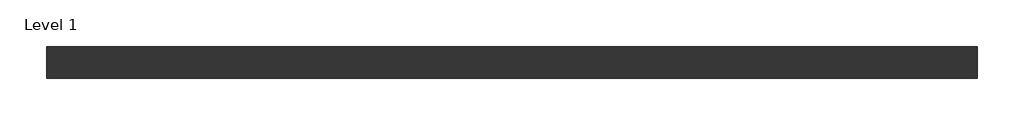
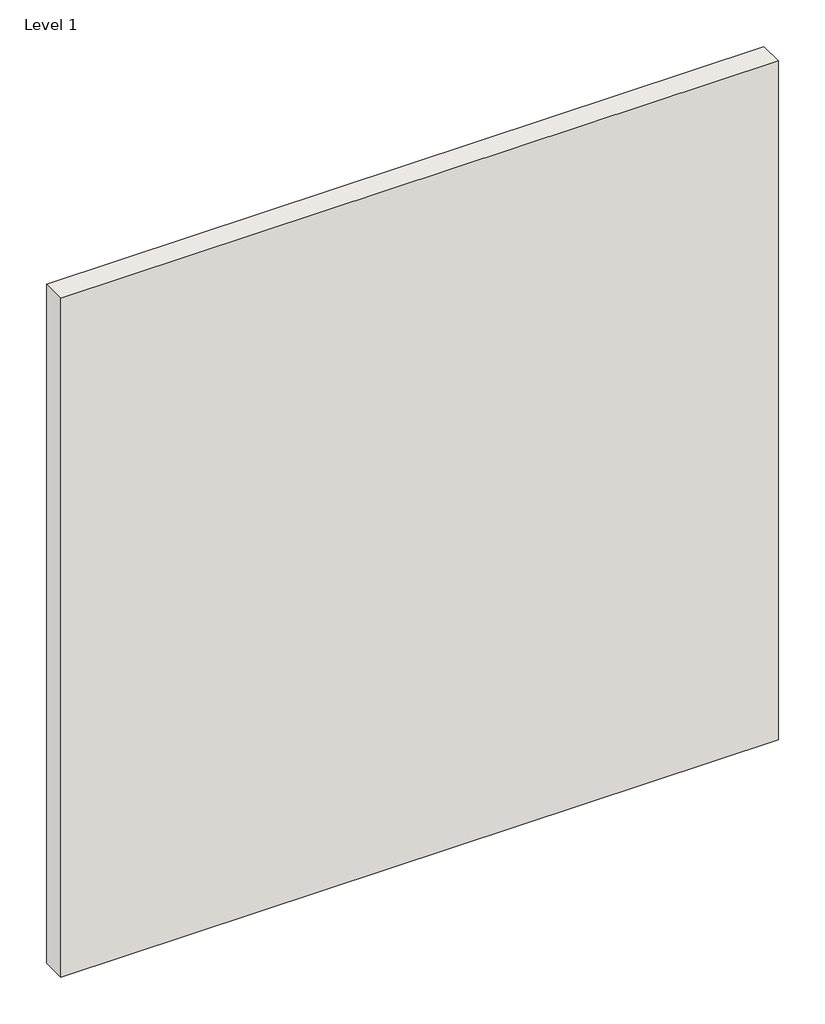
# One storey: 1 wall.
"""IFC4 building model written with IfcOpenShell, lengths in millimetres."""

import ifcopenshell
import ifcopenshell.guid

model = None  # the IFC model being written
_history = None  # IfcOwnerHistory: only IFC2X3 demands one
_inside = {}  # id of a spatial element -> (the spatial element, [elements in it])
_under = {}  # id of a project, library or spatial element -> (it, [spatial elements below it])
_declared = {}  # id of a project -> (the project, [libraries it declares])
_typed = {}  # id of a type object -> (the type object, [elements of that type])
_made_of = {}  # id of a material, layer set ... -> (it, [elements and type objects made of it])


def new_model(schema):
    """Start an empty IFC model of exactly this schema.

    Asked for "IFC4X3", IfcOpenShell would pick the latest addendum, in which some entities
    have other attributes; the version numbers below select the first issue.
    IFC2X3 requires an IfcOwnerHistory on every rooted entity: one is made here for all.
    """
    global model, _history
    if schema == "IFC4X3":
        model = ifcopenshell.file(schema_version=(4, 3, 0, 0))
    else:
        model = ifcopenshell.file(schema=schema)
    _inside.clear()
    _under.clear()
    _declared.clear()
    _typed.clear()
    _made_of.clear()
    _history = None
    if model.schema == "IFC2X3":
        org = make("IfcOrganization", Name="unknown")
        user = make(
            "IfcPersonAndOrganization",
            ThePerson=make("IfcPerson", FamilyName="unknown"),
            TheOrganization=org,
        )
        app = make(
            "IfcApplication",
            ApplicationDeveloper=org,
            Version="unknown",
            ApplicationFullName="unknown",
            ApplicationIdentifier="unknown",
        )
        _history = make(
            "IfcOwnerHistory",
            OwningUser=user,
            OwningApplication=app,
            ChangeAction="ADDED",
            CreationDate=0,
        )
    return model


def make(cls, **values):
    """One entity of the class cls with the attributes given. An attribute that is None is left unset."""
    return model.create_entity(
        cls, **{name: value for name, value in values.items() if value is not None}
    )


def rooted(cls, **values):
    """An entity with a GlobalId (a new one), such as an element, a storey or a relation."""
    return make(cls, GlobalId=ifcopenshell.guid.new(), OwnerHistory=_history, **values)


def si_unit(unit_type, name, prefix=None):
    """IfcSIUnit, for example si_unit("LENGTHUNIT", "METRE", prefix="MILLI")."""
    return make("IfcSIUnit", UnitType=unit_type, Prefix=prefix, Name=name)


def assignment(units):
    """IfcUnitAssignment: the units of a project."""
    return None if units is None else make("IfcUnitAssignment", Units=units)


def point(xyz):
    """IfcCartesianPoint."""
    return None if xyz is None else make("IfcCartesianPoint", Coordinates=xyz)


def direction(xyz):
    """IfcDirection."""
    return None if xyz is None else make("IfcDirection", DirectionRatios=xyz)


def frame(location, z_axis=None, x_axis=None):
    """IfcAxis2Placement3D, a coordinate frame: its origin and axes. An axis left out is left unset."""
    return make(
        "IfcAxis2Placement3D",
        Location=point(location),
        Axis=direction(z_axis),
        RefDirection=direction(x_axis),
    )


def origin():
    """The frame at (0, 0, 0) with its axes left unset."""
    return frame((0.0, 0.0, 0.0))


def origin_with_axes():
    """The frame at (0, 0, 0) with the z axis (0, 0, 1) and the x axis (1, 0, 0) written out."""
    return frame((0.0, 0.0, 0.0), z_axis=(0.0, 0.0, 1.0), x_axis=(1.0, 0.0, 0.0))


def place(relative_to, where):
    """IfcLocalPlacement: puts the frame where relative to a parent placement (None: the world)."""
    return make(
        "IfcLocalPlacement", PlacementRelTo=relative_to, RelativePlacement=where
    )


def context(
    kind, dimensions, precision=None, world=None, true_north=None, identifier=None
):
    """IfcGeometricRepresentationContext, for example the 3D "Model" context."""
    return make(
        "IfcGeometricRepresentationContext",
        ContextIdentifier=identifier,
        ContextType=kind,
        CoordinateSpaceDimension=dimensions,
        Precision=precision,
        WorldCoordinateSystem=world,
        TrueNorth=true_north,
    )


def project(units=None, contexts=None):
    """IfcProject with its units and contexts."""
    return rooted(
        "IfcProject",
        Name="project",
        RepresentationContexts=contexts,
        UnitsInContext=assignment(units),
    )


def spatial(cls, under=None, at=None, **own):
    """A site, building, storey or space (cls), placed at a placement, below another one or the project."""
    s = rooted(cls, ObjectPlacement=at, **own)
    if under is not None:
        _under.setdefault(under.id(), (under, []))[1].append(s)
    return s


def polyline(points):
    """IfcPolyline through the points."""
    return make("IfcPolyline", Points=[point(p) for p in points])


def outline(outer, holes=None, kind="AREA"):
    """IfcArbitraryClosedProfileDef: a profile drawn as a closed curve; with holes, ...WithVoids."""
    if holes is None:
        return make("IfcArbitraryClosedProfileDef", ProfileType=kind, OuterCurve=outer)
    return make(
        "IfcArbitraryProfileDefWithVoids",
        ProfileType=kind,
        OuterCurve=outer,
        InnerCurves=holes,
    )


def extrude(swept, where, along, depth):
    """IfcExtrudedAreaSolid: the profile swept, set in the frame where, extruded along a direction by depth."""
    return make(
        "IfcExtrudedAreaSolid",
        SweptArea=swept,
        Position=where,
        ExtrudedDirection=direction(along),
        Depth=depth,
    )


def shape(context_of_items, identifier, shape_type, items):
    """IfcShapeRepresentation: the items that make up one representation, for example the "Body"."""
    return make(
        "IfcShapeRepresentation",
        ContextOfItems=context_of_items,
        RepresentationIdentifier=identifier,
        RepresentationType=shape_type,
        Items=items,
    )


def made_of(thing, what):
    """Note that an element or type object is made of a material, layer set ...; save() writes the relation."""
    if what is not None:
        _made_of.setdefault(what.id(), (what, []))[1].append(thing)
    return thing


def element(
    cls,
    number,
    at=None,
    inside=None,
    cuts=None,
    type_object=None,
    material=None,
    context=None,
    identifier="Body",
    shape_type=None,
    held_by="IfcProductDefinitionShape",
    body=None,
    shapes=None,
    **own,
):
    """One element of the class cls, such as IfcWall. Its Tag is "e" and its number.

    at: its placement. inside: the storey or other place that contains it. cuts: it is an
    opening in that element (IfcRelVoidsElement). A single representation is given by context,
    identifier, shape_type and body (its items); several are given by shapes. held_by: the class
    of the entity that holds the representations. save() writes the other relations.
    """
    e = rooted(cls, Tag="e%d" % number, ObjectPlacement=at, **own)
    if body is not None:
        shapes = [shape(context, identifier, shape_type, body)]
    if shapes is not None:
        e.Representation = make(held_by, Representations=shapes)
    if inside is not None:
        _inside.setdefault(inside.id(), (inside, []))[1].append(e)
    if cuts is not None:
        rooted(
            "IfcRelVoidsElement", RelatingBuildingElement=cuts, RelatedOpeningElement=e
        )
    if type_object is not None:
        _typed.setdefault(type_object.id(), (type_object, []))[1].append(e)
    return made_of(e, material)


def aggregate(whole, parts):
    """IfcRelAggregates: a whole, such as a stair, and the parts it consists of."""
    return rooted("IfcRelAggregates", RelatingObject=whole, RelatedObjects=parts)


def save(model, path):
    """Write the relations noted so far, then the file.

    IfcRelAggregates (storeys below a building ...), IfcRelContainedInSpatialStructure (elements
    in a storey), IfcRelDefinesByType, IfcRelAssociatesMaterial and IfcRelDeclares: one each for
    every whole, place, type object, material and project.
    """
    for whole, parts in _under.values():
        aggregate(whole, parts)
    for where, things in _inside.values():
        rooted(
            "IfcRelContainedInSpatialStructure",
            RelatedElements=things,
            RelatingStructure=where,
        )
    for kind, things in _typed.values():
        rooted("IfcRelDefinesByType", RelatedObjects=things, RelatingType=kind)
    for what, things in _made_of.values():
        rooted("IfcRelAssociatesMaterial", RelatedObjects=things, RelatingMaterial=what)
    for by, libraries in _declared.values():
        rooted("IfcRelDeclares", RelatingContext=by, RelatedDefinitions=libraries)
    model.write(path)


model = new_model("IFC4")

# Units and contexts
model_context = context("Model", 3, world=origin())
ifc_project = project(units=[si_unit("LENGTHUNIT", "METRE", prefix="MILLI")], contexts=[model_context])

# Site, building, storey
site = spatial("IfcSite", under=ifc_project)
building = spatial("IfcBuilding", under=site)
storey = spatial("IfcBuildingStorey", under=building, Name="Level 1", Elevation=0.0)

# Wall
placement = place(None, origin())
element("IfcWall", 1, ObjectType="21_wa_Terca-Oud Malle-HV-EF", at=placement, inside=storey, context=model_context, shape_type="SweptSolid", body=[
    extrude(outline(polyline([(5179.3785311, 2526.4336158), (2179.3785311, 2526.4336158), (2179.3785311, 2628.9336158), (5179.3785311, 2628.9336158), (5179.3785311, 2526.4336158)])), origin_with_axes(), (0.0, 0.0, 1.0), 3000.0),
])

save(model, "model.ifc")
